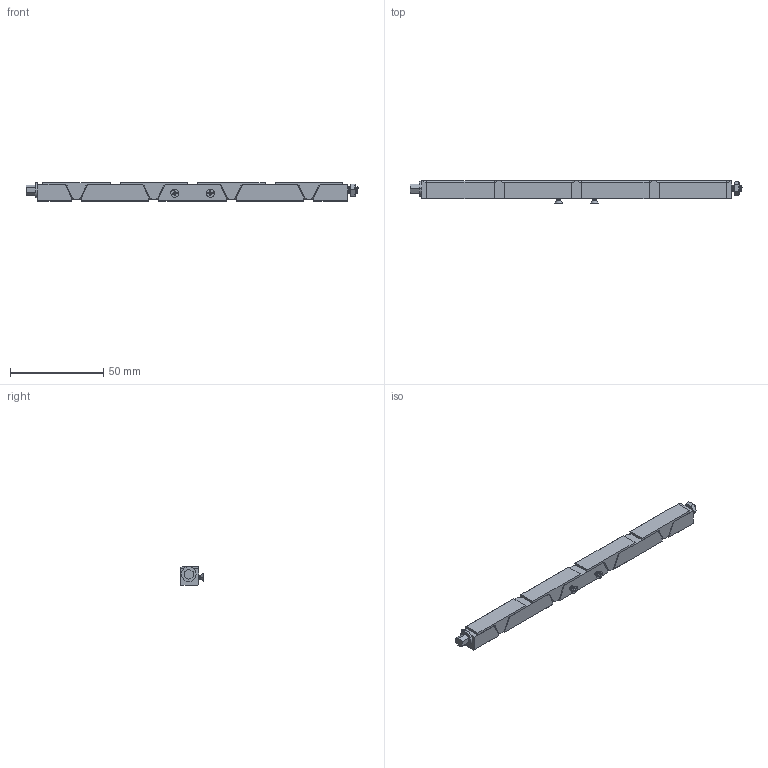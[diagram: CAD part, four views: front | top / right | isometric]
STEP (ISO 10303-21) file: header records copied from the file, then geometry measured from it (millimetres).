
FILE_DESCRIPTION (( 'STEP AP203' ), '1' );
FILE_NAME ('375-09 Side B.STEP', '2022-08-19T16:48:43', ( '' ), ( '' ), 'SwSTEP 2.0', 'SolidWorks 2021', '' );
FILE_SCHEMA (( 'CONFIG_CONTROL_DESIGN' ));
Length unit declared in the file: inch
Products named in the file (9): MS51959-2; IL-375#-LW; IL-375#-MAW; IL-375#-RW; 375-09 Side B; NAS 671C6; MS15795-805; IL-375#-MOW; IL-375TB-#W_-9
Assembly tree (14 placements, depth 2):
  375-09 Side B
    IL-375#-LW
    IL-375#-RW
    MS15795-805
    IL-375#-MOW
    IL-375#-MAW  x6
    IL-375TB-#W_-9
    MS51959-2  x2
    NAS 671C6
Bounding box: 177.8 x 11.94 x 10.16 mm (x, y, z)
Volume: 13505.5 mm3; surface area: 15050.4 mm2
Topology: 16 solids, 16 shells, 516 faces, 1389 edges, 906 vertices
Faces by surface type: cylinder 240, plane 219, cone 48, bspline 9
Entity records: 17871 total; most frequent: CARTESIAN_POINT 10206, ORIENTED_EDGE 1592, DIRECTION 1138, EDGE_CURVE 796, VERTEX_POINT 522, VECTOR 390, LINE 390, AXIS2_PLACEMENT_3D 374
